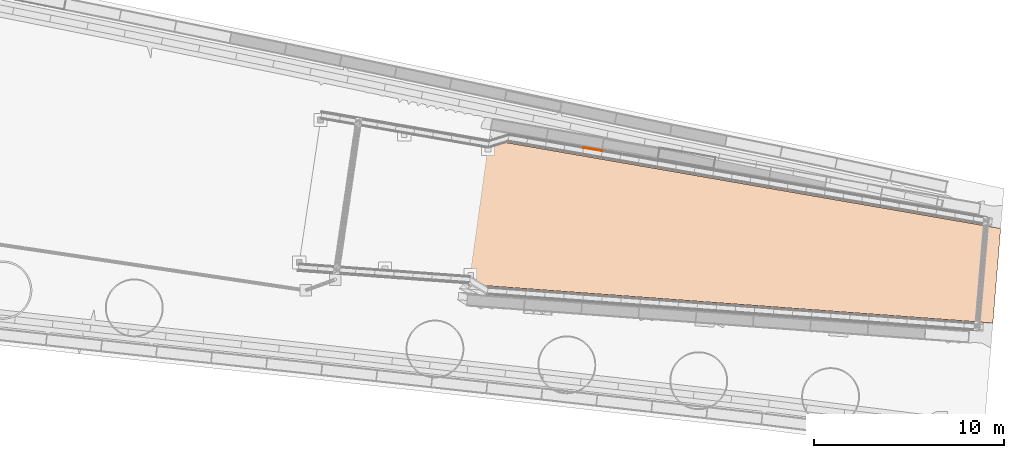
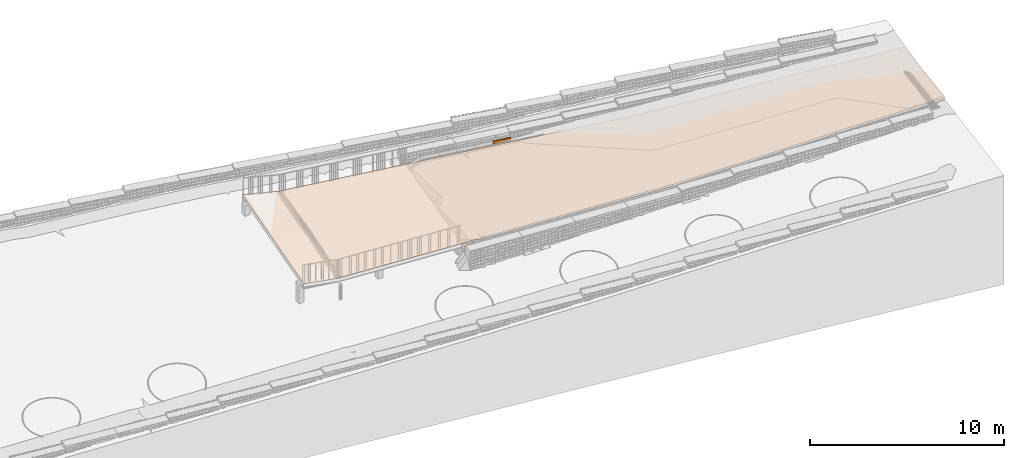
# Not in any storey, part 32 of 45: 1 geographic element, 1 proxy.
"""IFC4 model written with IfcOpenShell, lengths in metres."""

from ifc_helpers import new_model, si_unit, direction, frame, origin_with_axes, place, context, subcontext, project, spatial, polygons, material, element, save


model = new_model("IFC4")

# Units and contexts
model_context = context("Model", 3, precision=1e-05, world=origin_with_axes(), true_north=direction((0.0, 1.0)))
body_context = subcontext(model_context, "Body", "Model", "MODEL_VIEW")
ifc_project = project(units=[si_unit("VOLUMEUNIT", "CUBIC_METRE"), si_unit("LENGTHUNIT", "METRE"), si_unit("AREAUNIT", "SQUARE_METRE")], contexts=[model_context])

# Site
site_placement = place(None, origin_with_axes())
site = spatial("IfcSite", under=ifc_project, at=site_placement, Name="Lares · Rua das Mercês · artigo 4771")

# Geographic element
ifc_material_1 = material(Name="Pavimento rugoso · betão vassourado", Category="paving")
geographic_element_placement = place(site_placement, origin_with_axes())
element("IfcGeographicElement", 1, at=geographic_element_placement, inside=site, material=ifc_material_1, Name="Acesso trapezoidal · 8,60 m no pódio / 5,00 m na rua", ObjectType="Acesso trapezoidal · 8,60 m no pódio / 5,00 m na rua", PredefinedType="USERDEFINED", context=body_context, shape_type="Tessellation", body=[
    polygons([(47.2726755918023, 7.45513694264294, 15.76), (46.637095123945, 3.2023687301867, 15.76), (48.2651934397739, 7.33303730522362, 15.68), (48.2651934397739, 7.33303730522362, 15.68), (46.637095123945, 3.2023687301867, 15.76), (47.6414040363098, 3.1285378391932, 15.5737369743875), (47.9082560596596, 11.7079051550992, 15.76), (47.2726755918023, 7.45513694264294, 15.76), (48.8889828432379, 11.537536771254, 15.5737369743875), (48.8889828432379, 11.537536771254, 15.5737369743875), (47.2726755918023, 7.45513694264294, 15.76), (48.2651934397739, 7.33303730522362, 15.68), (48.2651934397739, 7.33303730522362, 15.68), (47.6414040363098, 3.1285378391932, 15.5737369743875), (49.2577112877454, 7.2109376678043, 15.6), (49.2577112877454, 7.2109376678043, 15.6), (47.6414040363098, 3.1285378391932, 15.5737369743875), (48.6457129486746, 3.0547069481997, 15.4949738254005), (48.8889828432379, 11.537536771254, 15.5737369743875), (48.2651934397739, 7.33303730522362, 15.68), (49.8697096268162, 11.3671683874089, 15.4949738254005), (49.8697096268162, 11.3671683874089, 15.4949738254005), (48.2651934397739, 7.33303730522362, 15.68), (49.2577112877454, 7.2109376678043, 15.6), (49.2577112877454, 7.2109376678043, 15.6), (48.6457129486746, 3.0547069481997, 15.4949738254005), (50.250229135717, 7.08883803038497, 15.601), (50.250229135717, 7.08883803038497, 15.601), (48.6457129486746, 3.0547069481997, 15.4949738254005), (49.6500218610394, 2.9808760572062, 15.4972105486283), (49.8697096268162, 11.3671683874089, 15.4949738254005), (49.2577112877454, 7.2109376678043, 15.6), (50.8504364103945, 11.1968000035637, 15.4972105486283), (50.8504364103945, 11.1968000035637, 15.4972105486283), (49.2577112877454, 7.2109376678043, 15.6), (50.250229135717, 7.08883803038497, 15.601), (50.250229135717, 7.08883803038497, 15.601), (49.6500218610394, 2.9808760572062, 15.4972105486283), (51.2427469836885, 6.96673839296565, 15.602), (51.2427469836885, 6.96673839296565, 15.602), (49.6500218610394, 2.9808760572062, 15.4972105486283), (50.6543307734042, 2.9070451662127, 15.4994471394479), (50.8504364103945, 11.1968000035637, 15.4972105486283), (50.250229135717, 7.08883803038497, 15.601), (51.8311631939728, 11.0264316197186, 15.4994471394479), (51.8311631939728, 11.0264316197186, 15.4994471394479), (50.250229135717, 7.08883803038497, 15.601), (51.2427469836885, 6.96673839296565, 15.602), (51.2427469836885, 6.96673839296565, 15.602), (50.6543307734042, 2.9070451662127, 15.4994471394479), (52.2352648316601, 6.84463875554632, 15.603), (52.2352648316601, 6.84463875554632, 15.603), (50.6543307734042, 2.9070451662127, 15.4994471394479), (51.658639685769, 2.8332142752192, 15.501683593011), (51.8311631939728, 11.0264316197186, 15.4994471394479), (51.2427469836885, 6.96673839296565, 15.602), (52.8118899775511, 10.8560632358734, 15.501683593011), (52.8118899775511, 10.8560632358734, 15.501683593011), (51.2427469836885, 6.96673839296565, 15.602), (52.2352648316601, 6.84463875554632, 15.603), (52.2352648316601, 6.84463875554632, 15.603), (51.658639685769, 2.8332142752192, 15.501683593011), (53.2277826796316, 6.722539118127, 15.604), (53.2277826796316, 6.722539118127, 15.604), (51.658639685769, 2.8332142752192, 15.501683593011), (52.6629485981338, 2.7593833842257, 15.5039199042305), (52.8118899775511, 10.8560632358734, 15.501683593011), (52.2352648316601, 6.84463875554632, 15.603), (53.7926167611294, 10.6856948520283, 15.5039199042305), (53.7926167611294, 10.6856948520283, 15.5039199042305), (52.2352648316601, 6.84463875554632, 15.603), (53.2277826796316, 6.722539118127, 15.604), (53.2277826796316, 6.722539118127, 15.604), (52.6629485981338, 2.7593833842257, 15.5039199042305), (54.2203005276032, 6.60043948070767, 15.605), (54.2203005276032, 6.60043948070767, 15.605), (52.6629485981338, 2.7593833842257, 15.5039199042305), (53.6672575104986, 2.6855524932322, 15.506156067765), (53.7926167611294, 10.6856948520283, 15.5039199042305), (53.2277826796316, 6.722539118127, 15.604), (54.7733435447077, 10.5153264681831, 15.506156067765), (54.7733435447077, 10.5153264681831, 15.506156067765), (53.2277826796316, 6.722539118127, 15.604), (54.2203005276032, 6.60043948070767, 15.605), (54.2203005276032, 6.60043948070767, 15.605), (53.6672575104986, 2.6855524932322, 15.506156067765), (55.2128183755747, 6.47833984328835, 15.606), (55.2128183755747, 6.47833984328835, 15.606), (53.6672575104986, 2.6855524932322, 15.506156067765), (54.6715664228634, 2.6117216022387, 15.5083920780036), (54.7733435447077, 10.5153264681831, 15.506156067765), (54.2203005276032, 6.60043948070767, 15.605), (55.754070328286, 10.344958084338, 15.5083920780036), (55.754070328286, 10.344958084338, 15.5083920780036), (54.2203005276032, 6.60043948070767, 15.605), (55.2128183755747, 6.47833984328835, 15.606), (55.2128183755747, 6.47833984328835, 15.606), (54.6715664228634, 2.6117216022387, 15.5083920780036), (56.2053362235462, 6.35624020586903, 15.607), (56.2053362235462, 6.35624020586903, 15.607), (54.6715664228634, 2.6117216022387, 15.5083920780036), (55.6758753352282, 2.5378907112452, 15.5106279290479), (55.754070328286, 10.344958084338, 15.5083920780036), (55.2128183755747, 6.47833984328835, 15.606), (56.7347971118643, 10.1745897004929, 15.5106279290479), (56.7347971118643, 10.1745897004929, 15.5106279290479), (55.2128183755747, 6.47833984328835, 15.606), (56.2053362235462, 6.35624020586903, 15.607), (56.2053362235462, 6.35624020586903, 15.607), (55.6758753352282, 2.5378907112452, 15.5106279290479), (57.1978540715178, 6.2341405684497, 15.608), (57.1978540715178, 6.2341405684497, 15.608), (55.6758753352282, 2.5378907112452, 15.5106279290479), (56.680184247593, 2.4640598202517, 15.512863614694), (56.7347971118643, 10.1745897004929, 15.5106279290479), (56.2053362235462, 6.35624020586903, 15.607), (57.7155238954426, 10.0042213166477, 15.512863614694), (57.7155238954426, 10.0042213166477, 15.512863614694), (56.2053362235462, 6.35624020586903, 15.607), (57.1978540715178, 6.2341405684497, 15.608), (57.1978540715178, 6.2341405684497, 15.608), (56.680184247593, 2.4640598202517, 15.512863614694), (58.1903719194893, 6.11204093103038, 15.609), (58.1903719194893, 6.11204093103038, 15.609), (56.680184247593, 2.4640598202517, 15.512863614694), (57.6844931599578, 2.3902289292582, 15.5150991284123), (57.7155238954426, 10.0042213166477, 15.512863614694), (57.1978540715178, 6.2341405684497, 15.608), (58.6962506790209, 9.83385293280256, 15.5150991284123), (58.6962506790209, 9.83385293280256, 15.5150991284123), (57.1978540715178, 6.2341405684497, 15.608), (58.1903719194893, 6.11204093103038, 15.609), (58.1903719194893, 6.11204093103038, 15.609), (57.6844931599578, 2.3902289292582, 15.5150991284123), (59.1828897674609, 5.98994129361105, 15.61), (59.1828897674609, 5.98994129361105, 15.61), (57.6844931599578, 2.3902289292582, 15.5150991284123), (58.6888020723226, 2.3163980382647, 15.5173344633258), (58.6962506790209, 9.83385293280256, 15.5150991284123), (58.1903719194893, 6.11204093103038, 15.609), (59.6769774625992, 9.66348454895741, 15.5173344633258), (59.6769774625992, 9.66348454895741, 15.5173344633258), (58.1903719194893, 6.11204093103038, 15.609), (59.1828897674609, 5.98994129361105, 15.61), (59.1828897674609, 5.98994129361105, 15.61), (58.6888020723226, 2.3163980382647, 15.5173344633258), (60.1754076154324, 5.86784165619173, 15.611), (60.1754076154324, 5.86784165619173, 15.611), (58.6888020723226, 2.3163980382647, 15.5173344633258), (59.6931109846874, 2.2425671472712, 15.5195696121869), (59.6769774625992, 9.66348454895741, 15.5173344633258), (59.1828897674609, 5.98994129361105, 15.61), (60.6577042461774, 9.49311616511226, 15.5195696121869), (60.6577042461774, 9.49311616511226, 15.5195696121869), (59.1828897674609, 5.98994129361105, 15.61), (60.1754076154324, 5.86784165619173, 15.611), (60.1754076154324, 5.86784165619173, 15.611), (59.6931109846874, 2.2425671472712, 15.5195696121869), (61.167925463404, 5.7457420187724, 15.612), (61.167925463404, 5.7457420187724, 15.612), (59.6931109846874, 2.2425671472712, 15.5195696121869), (60.6974198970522, 2.1687362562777, 15.521804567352), (60.6577042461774, 9.49311616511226, 15.5195696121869), (60.1754076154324, 5.86784165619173, 15.611), (61.6384310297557, 9.32274778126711, 15.521804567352), (61.6384310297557, 9.32274778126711, 15.521804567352), (60.1754076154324, 5.86784165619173, 15.611), (61.167925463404, 5.7457420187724, 15.612), (61.167925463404, 5.7457420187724, 15.612), (60.6974198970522, 2.1687362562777, 15.521804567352), (62.1604433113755, 5.62364238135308, 15.613), (62.1604433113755, 5.62364238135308, 15.613), (60.6974198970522, 2.1687362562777, 15.521804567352), (61.701728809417, 2.0949053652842, 15.5240393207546), (61.6384310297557, 9.32274778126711, 15.521804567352), (61.167925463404, 5.7457420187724, 15.612), (62.619157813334, 9.15237939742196, 15.5240393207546), (62.619157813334, 9.15237939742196, 15.5240393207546), (61.167925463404, 5.7457420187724, 15.612), (62.1604433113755, 5.62364238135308, 15.613), (62.1604433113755, 5.62364238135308, 15.613), (61.701728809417, 2.0949053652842, 15.5240393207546), (63.1529611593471, 5.50154274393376, 15.614), (63.1529611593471, 5.50154274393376, 15.614), (61.701728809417, 2.0949053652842, 15.5240393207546), (62.7060377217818, 2.0210744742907, 15.5262738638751), (62.619157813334, 9.15237939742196, 15.5240393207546), (62.1604433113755, 5.62364238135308, 15.613), (63.5998845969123, 8.98201101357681, 15.5262738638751), (63.5998845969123, 8.98201101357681, 15.5262738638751), (62.1604433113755, 5.62364238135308, 15.613), (63.1529611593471, 5.50154274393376, 15.614), (63.1529611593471, 5.50154274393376, 15.614), (62.7060377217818, 2.0210744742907, 15.5262738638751), (64.1454790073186, 5.37944310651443, 15.615), (64.1454790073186, 5.37944310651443, 15.615), (62.7060377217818, 2.0210744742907, 15.5262738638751), (63.7103466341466, 1.9472435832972, 15.5285081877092), (63.5998845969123, 8.98201101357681, 15.5262738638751), (63.1529611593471, 5.50154274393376, 15.614), (64.5806113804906, 8.81164262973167, 15.5285081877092), (64.5806113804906, 8.81164262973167, 15.5285081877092), (63.1529611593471, 5.50154274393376, 15.614), (64.1454790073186, 5.37944310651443, 15.615), (64.1454790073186, 5.37944310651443, 15.615), (63.7103466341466, 1.9472435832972, 15.5285081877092), (65.1379968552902, 5.25734346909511, 15.616), (65.1379968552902, 5.25734346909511, 15.616), (63.7103466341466, 1.9472435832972, 15.5285081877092), (64.7146555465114, 1.8734126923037, 15.5307422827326), (64.5806113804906, 8.81164262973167, 15.5285081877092), (64.1454790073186, 5.37944310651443, 15.615), (65.5613381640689, 8.64127424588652, 15.5307422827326), (65.5613381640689, 8.64127424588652, 15.5307422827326), (64.1454790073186, 5.37944310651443, 15.615), (65.1379968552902, 5.25734346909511, 15.616), (65.1379968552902, 5.25734346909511, 15.616), (64.7146555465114, 1.8734126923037, 15.5307422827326), (66.1305147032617, 5.13524383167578, 15.617), (66.1305147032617, 5.13524383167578, 15.617), (64.7146555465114, 1.8734126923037, 15.5307422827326), (65.7189644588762, 1.7995818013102, 15.5329761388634), (65.5613381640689, 8.64127424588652, 15.5307422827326), (65.1379968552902, 5.25734346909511, 15.616), (66.5420649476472, 8.47090586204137, 15.5329761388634), (66.5420649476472, 8.47090586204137, 15.5329761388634), (65.1379968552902, 5.25734346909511, 15.616), (66.1305147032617, 5.13524383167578, 15.617), (66.1305147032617, 5.13524383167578, 15.617), (65.7189644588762, 1.7995818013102, 15.5329761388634), (67.1230325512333, 5.01314419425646, 15.618), (67.1230325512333, 5.01314419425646, 15.618), (65.7189644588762, 1.7995818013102, 15.5329761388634), (66.723273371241, 1.7257509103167, 15.5352097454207), (66.5420649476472, 8.47090586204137, 15.5329761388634), (66.1305147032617, 5.13524383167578, 15.617), (67.5227917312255, 8.30053747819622, 15.5352097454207), (67.5227917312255, 8.30053747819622, 15.5352097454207), (66.1305147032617, 5.13524383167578, 15.617), (67.1230325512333, 5.01314419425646, 15.618), (67.1230325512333, 5.01314419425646, 15.618), (66.723273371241, 1.7257509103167, 15.5352097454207), (68.1155503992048, 4.89104455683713, 15.619), (68.1155503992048, 4.89104455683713, 15.619), (66.723273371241, 1.7257509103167, 15.5352097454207), (67.7275822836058, 1.6519200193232, 15.5374430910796), (67.5227917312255, 8.30053747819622, 15.5352097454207), (67.1230325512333, 5.01314419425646, 15.618), (68.5035185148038, 8.13016909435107, 15.5374430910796), (68.5035185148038, 8.13016909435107, 15.5374430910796), (67.1230325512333, 5.01314419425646, 15.618), (68.1155503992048, 4.89104455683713, 15.619), (68.1155503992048, 4.89104455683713, 15.619), (67.7275822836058, 1.6519200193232, 15.5374430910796), (69.1080682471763, 4.76894491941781, 15.6566969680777), (69.1080682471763, 4.76894491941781, 15.6566969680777), (67.7275822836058, 1.6519200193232, 15.5374430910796), (68.7318911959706, 1.5780891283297, 15.5763731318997), (68.5035185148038, 8.13016909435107, 15.5374430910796), (68.1155503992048, 4.89104455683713, 15.619), (69.4842452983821, 7.95980071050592, 15.5763731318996), (69.4842452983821, 7.95980071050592, 15.5763731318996), (68.1155503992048, 4.89104455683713, 15.619), (69.1080682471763, 4.76894491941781, 15.6566969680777), (69.1080682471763, 4.76894491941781, 15.6566969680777), (68.7318911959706, 1.5780891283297, 15.5763731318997), (70.1005860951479, 4.64684528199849, 15.6990598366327), (70.1005860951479, 4.64684528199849, 15.6990598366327), (68.7318911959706, 1.5780891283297, 15.5763731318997), (69.7362001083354, 1.5042582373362, 15.6199687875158), (69.4842452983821, 7.95980071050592, 15.5763731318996), (69.1080682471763, 4.76894491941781, 15.6566969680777), (70.4649720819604, 7.78943232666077, 15.6199687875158), (70.4649720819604, 7.78943232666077, 15.6199687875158), (69.1080682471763, 4.76894491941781, 15.6566969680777), (70.1005860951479, 4.64684528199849, 15.6990598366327), (70.1005860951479, 4.64684528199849, 15.6990598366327), (69.7362001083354, 1.5042582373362, 15.6199687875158), (71.0931039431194, 4.52474564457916, 15.740890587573), (71.0931039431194, 4.52474564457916, 15.740890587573), (69.7362001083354, 1.5042582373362, 15.6199687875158), (70.7405090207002, 1.4304273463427, 15.6630320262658), (70.4649720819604, 7.78943232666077, 15.6199687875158), (70.1005860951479, 4.64684528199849, 15.6990598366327), (71.4456988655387, 7.61906394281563, 15.6630320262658), (71.4456988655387, 7.61906394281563, 15.6630320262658), (70.1005860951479, 4.64684528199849, 15.6990598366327), (71.0931039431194, 4.52474564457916, 15.740890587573), (71.0931039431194, 4.52474564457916, 15.740890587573), (70.7405090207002, 1.4304273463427, 15.6630320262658), (72.085621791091, 4.40264600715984, 15.7861354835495), (72.085621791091, 4.40264600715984, 15.7861354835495), (70.7405090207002, 1.4304273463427, 15.6630320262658), (71.744817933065, 1.3565964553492, 15.7095090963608), (71.4456988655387, 7.61906394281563, 15.6630320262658), (71.0931039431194, 4.52474564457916, 15.740890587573), (72.426425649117, 7.44869555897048, 15.7095090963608), (72.426425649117, 7.44869555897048, 15.7095090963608), (71.0931039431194, 4.52474564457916, 15.740890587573), (72.085621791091, 4.40264600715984, 15.7861354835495), (72.085621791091, 4.40264600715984, 15.7861354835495), (71.744817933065, 1.3565964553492, 15.7095090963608), (73.0781396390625, 4.28054636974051, 15.8397425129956), (73.0781396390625, 4.28054636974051, 15.8397425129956), (71.744817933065, 1.3565964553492, 15.7095090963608), (72.7491268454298, 1.2827655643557, 15.7643479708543), (72.426425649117, 7.44869555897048, 15.7095090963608), (72.085621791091, 4.40264600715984, 15.7861354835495), (73.4071524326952, 7.27832717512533, 15.7643479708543), (73.4071524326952, 7.27832717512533, 15.7643479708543), (72.085621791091, 4.40264600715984, 15.7861354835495), (73.0781396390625, 4.28054636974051, 15.8397425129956), (73.0781396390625, 4.28054636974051, 15.8397425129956), (72.7491268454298, 1.2827655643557, 15.7643479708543), (74.0706574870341, 4.15844673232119, 15.8933495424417), (74.0706574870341, 4.15844673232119, 15.8933495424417), (72.7491268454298, 1.2827655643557, 15.7643479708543), (73.7534357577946, 1.2089346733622, 15.8191864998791), (73.4071524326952, 7.27832717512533, 15.7643479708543), (73.0781396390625, 4.28054636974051, 15.8397425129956), (74.3878792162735, 7.10795879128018, 15.8191864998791), (74.3878792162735, 7.10795879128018, 15.8191864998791), (73.0781396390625, 4.28054636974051, 15.8397425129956), (74.0706574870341, 4.15844673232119, 15.8933495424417), (74.0706574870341, 4.15844673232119, 15.8933495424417), (73.7534357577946, 1.2089346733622, 15.8191864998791), (75.0631753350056, 4.03634709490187, 15.9469565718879), (75.0631753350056, 4.03634709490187, 15.9469565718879), (73.7534357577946, 1.2089346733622, 15.8191864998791), (74.7577446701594, 1.1351037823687, 15.8740246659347), (74.3878792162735, 7.10795879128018, 15.8191864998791), (74.0706574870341, 4.15844673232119, 15.8933495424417), (75.3686059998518, 6.93759040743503, 15.8740246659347), (75.3686059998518, 6.93759040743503, 15.8740246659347), (74.0706574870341, 4.15844673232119, 15.8933495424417), (75.0631753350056, 4.03634709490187, 15.9469565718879), (75.0631753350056, 4.03634709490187, 15.9469565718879), (74.7577446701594, 1.1351037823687, 15.8740246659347), (76.0556931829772, 3.91424745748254, 16.000563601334), (76.0556931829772, 3.91424745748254, 16.000563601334), (74.7577446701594, 1.1351037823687, 15.8740246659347), (75.7620535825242, 1.0612728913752, 15.9288624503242), (75.3686059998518, 6.93759040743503, 15.8740246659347), (75.0631753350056, 4.03634709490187, 15.9469565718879), (76.3493327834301, 6.76722202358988, 15.9288624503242), (76.3493327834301, 6.76722202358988, 15.9288624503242), (75.0631753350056, 4.03634709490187, 15.9469565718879), (76.0556931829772, 3.91424745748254, 16.000563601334), (76.0556931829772, 3.91424745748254, 16.000563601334), (75.7620535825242, 1.0612728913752, 15.9288624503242), (77.0482110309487, 3.79214782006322, 16.0541706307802), (77.0482110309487, 3.79214782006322, 16.0541706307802), (75.7620535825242, 1.0612728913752, 15.9288624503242), (76.766362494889, 0.987442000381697, 15.9836998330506), (76.3493327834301, 6.76722202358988, 15.9288624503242), (76.0556931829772, 3.91424745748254, 16.000563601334), (77.3300595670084, 6.59685363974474, 15.9836998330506), (77.3300595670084, 6.59685363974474, 15.9836998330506), (76.0556931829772, 3.91424745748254, 16.000563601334), (77.0482110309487, 3.79214782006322, 16.0541706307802), (77.0482110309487, 3.79214782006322, 16.0541706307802), (76.766362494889, 0.987442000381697, 15.9836998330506), (78.0407288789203, 3.67004818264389, 16.1077776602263), (78.0407288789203, 3.67004818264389, 16.1077776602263), (76.766362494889, 0.987442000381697, 15.9836998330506), (77.7706714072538, 0.913611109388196, 16.038536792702), (77.3300595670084, 6.59685363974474, 15.9836998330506), (77.0482110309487, 3.79214782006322, 16.0541706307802), (78.3107863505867, 6.42648525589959, 16.038536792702), (78.3107863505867, 6.42648525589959, 16.038536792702), (77.0482110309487, 3.79214782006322, 16.0541706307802), (78.0407288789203, 3.67004818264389, 16.1077776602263), (78.0407288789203, 3.67004818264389, 16.1077776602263), (77.7706714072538, 0.913611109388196, 16.038536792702), (79.0332467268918, 3.54794854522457, 16.1490898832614), (79.0332467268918, 3.54794854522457, 16.1490898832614), (77.7706714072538, 0.913611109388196, 16.038536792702), (78.7749803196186, 0.839780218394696, 16.0810784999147), (78.3107863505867, 6.42648525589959, 16.038536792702), (78.0407288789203, 3.67004818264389, 16.1077776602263), (79.291513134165, 6.25611687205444, 16.0810784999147), (79.291513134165, 6.25611687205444, 16.0810784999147), (78.0407288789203, 3.67004818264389, 16.1077776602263), (79.0332467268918, 3.54794854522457, 16.1490898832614), (79.0332467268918, 3.54794854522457, 16.1490898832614), (78.7749803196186, 0.839780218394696, 16.0810784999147), (80.0257645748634, 3.42584890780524, 16.1786969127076), (80.0257645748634, 3.42584890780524, 16.1786969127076), (78.7749803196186, 0.839780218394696, 16.0810784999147), (79.7792892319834, 0.765949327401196, 16.1119145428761), (79.291513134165, 6.25611687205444, 16.0810784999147), (79.0332467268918, 3.54794854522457, 16.1490898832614), (80.2722399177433, 6.08574848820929, 16.1119145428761), (80.2722399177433, 6.08574848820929, 16.1119145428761), (79.0332467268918, 3.54794854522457, 16.1490898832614), (80.0257645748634, 3.42584890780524, 16.1786969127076), (80.0257645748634, 3.42584890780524, 16.1786969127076), (79.7792892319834, 0.765949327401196, 16.1119145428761), (81.0182824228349, 3.30374927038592, 16.2083039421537), (81.0182824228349, 3.30374927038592, 16.2083039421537), (79.7792892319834, 0.765949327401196, 16.1119145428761), (80.7835981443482, 0.692118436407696, 16.1427500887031), (80.2722399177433, 6.08574848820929, 16.1119145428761), (80.0257645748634, 3.42584890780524, 16.1786969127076), (81.2529667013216, 5.91538010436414, 16.1427500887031), (81.2529667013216, 5.91538010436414, 16.1427500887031), (80.0257645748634, 3.42584890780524, 16.1786969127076), (81.0182824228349, 3.30374927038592, 16.2083039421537), (81.0182824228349, 3.30374927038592, 16.2083039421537), (80.7835981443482, 0.692118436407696, 16.1427500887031), (82.0108002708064, 3.18164963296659, 16.2386952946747), (82.0108002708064, 3.18164963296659, 16.2386952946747), (80.7835981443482, 0.692118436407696, 16.1427500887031), (81.787907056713, 0.618287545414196, 16.1908459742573), (81.2529667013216, 5.91538010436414, 16.1427500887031), (81.0182824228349, 3.30374927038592, 16.2083039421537), (82.2336934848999, 5.74501172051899, 16.1908459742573), (82.2336934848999, 5.74501172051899, 16.1908459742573), (81.0182824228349, 3.30374927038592, 16.2083039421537), (82.0108002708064, 3.18164963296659, 16.2386952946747), (82.0108002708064, 3.18164963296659, 16.2386952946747), (81.787907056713, 0.618287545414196, 16.1908459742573), (82.6933710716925, 3.09767970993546, 16.259875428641), (82.6933710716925, 3.09767970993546, 16.259875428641), (81.787907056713, 0.618287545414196, 16.1908459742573), (82.4785867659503, 0.567512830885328, 16.2344827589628), (82.2336934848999, 5.74501172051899, 16.1908459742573), (82.0108002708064, 3.18164963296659, 16.2386952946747), (82.9081553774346, 5.62784658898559, 16.2344827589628), (82.9081553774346, 5.62784658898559, 16.2344827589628), (82.0108002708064, 3.18164963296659, 16.2386952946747), (82.6933710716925, 3.09767970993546, 16.259875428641), (82.6933710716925, 3.09767970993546, 16.259875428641), (82.4785867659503, 0.567512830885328, 16.2344827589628), (83.003318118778, 3.05954999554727, 16.2694930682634), (83.003318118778, 3.05954999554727, 16.2694930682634), (82.4785867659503, 0.567512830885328, 16.2344827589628), (82.7922159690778, 0.544456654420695, 16.2541059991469), (82.9081553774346, 5.62784658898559, 16.2344827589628), (82.6933710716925, 3.09767970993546, 16.259875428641), (83.2144202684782, 5.57464333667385, 16.2541059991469), (83.2144202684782, 5.57464333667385, 16.2541059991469), (82.6933710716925, 3.09767970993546, 16.259875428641), (83.003318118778, 3.05954999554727, 16.2694930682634), (83.003318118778, 3.05954999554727, 16.2694930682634), (82.7922159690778, 0.544456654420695, 16.2541059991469), (83.4873853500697, 2.99999999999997, 16.284513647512), (83.003318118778, 3.05954999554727, 16.2694930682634), (83.4873853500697, 2.99999999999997, 16.284513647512), (83.4873853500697, 3.0, 16.284513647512), (83.4873853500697, 3.0, 16.284513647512), (83.4873853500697, 2.99999999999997, 16.284513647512), (82.7922159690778, 0.544456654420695, 16.2541059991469), (83.4873853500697, 2.99999999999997, 16.284513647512), (82.7922159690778, 0.544456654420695, 16.2541059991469), (83.2820338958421, 0.508448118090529, 16.284513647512), (83.2144202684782, 5.57464333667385, 16.2541059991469), (83.003318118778, 3.05954999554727, 16.2694930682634), (83.6927368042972, 5.49155188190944, 16.284513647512), (83.2144202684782, 5.57464333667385, 16.2541059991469), (83.6927368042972, 5.49155188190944, 16.284513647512), (83.6927368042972, 5.49155188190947, 16.284513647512), (83.6927368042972, 5.49155188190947, 16.284513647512), (83.6927368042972, 5.49155188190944, 16.284513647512), (83.003318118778, 3.05954999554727, 16.2694930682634), (83.6927368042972, 5.49155188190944, 16.284513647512), (83.003318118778, 3.05954999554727, 16.2694930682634), (83.4873853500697, 3.0, 16.284513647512)], [[[1, 2, 3]], [[4, 5, 6]], [[7, 8, 9]], [[10, 11, 12]], [[13, 14, 15]], [[16, 17, 18]], [[19, 20, 21]], [[22, 23, 24]], [[25, 26, 27]], [[28, 29, 30]], [[31, 32, 33]], [[34, 35, 36]], [[37, 38, 39]], [[40, 41, 42]], [[43, 44, 45]], [[46, 47, 48]], [[49, 50, 51]], [[52, 53, 54]], [[55, 56, 57]], [[58, 59, 60]], [[61, 62, 63]], [[64, 65, 66]], [[67, 68, 69]], [[70, 71, 72]], [[73, 74, 75]], [[76, 77, 78]], [[79, 80, 81]], [[82, 83, 84]], [[85, 86, 87]], [[88, 89, 90]], [[91, 92, 93]], [[94, 95, 96]], [[97, 98, 99]], [[100, 101, 102]], [[103, 104, 105]], [[106, 107, 108]], [[109, 110, 111]], [[112, 113, 114]], [[115, 116, 117]], [[118, 119, 120]], [[121, 122, 123]], [[124, 125, 126]], [[127, 128, 129]], [[130, 131, 132]], [[133, 134, 135]], [[136, 137, 138]], [[139, 140, 141]], [[142, 143, 144]], [[145, 146, 147]], [[148, 149, 150]], [[151, 152, 153]], [[154, 155, 156]], [[157, 158, 159]], [[160, 161, 162]], [[163, 164, 165]], [[166, 167, 168]], [[169, 170, 171]], [[172, 173, 174]], [[175, 176, 177]], [[178, 179, 180]], [[181, 182, 183]], [[184, 185, 186]], [[187, 188, 189]], [[190, 191, 192]], [[193, 194, 195]], [[196, 197, 198]], [[199, 200, 201]], [[202, 203, 204]], [[205, 206, 207]], [[208, 209, 210]], [[211, 212, 213]], [[214, 215, 216]], [[217, 218, 219]], [[220, 221, 222]], [[223, 224, 225]], [[226, 227, 228]], [[229, 230, 231]], [[232, 233, 234]], [[235, 236, 237]], [[238, 239, 240]], [[241, 242, 243]], [[244, 245, 246]], [[247, 248, 249]], [[250, 251, 252]], [[253, 254, 255]], [[256, 257, 258]], [[259, 260, 261]], [[262, 263, 264]], [[265, 266, 267]], [[268, 269, 270]], [[271, 272, 273]], [[274, 275, 276]], [[277, 278, 279]], [[280, 281, 282]], [[283, 284, 285]], [[286, 287, 288]], [[289, 290, 291]], [[292, 293, 294]], [[295, 296, 297]], [[298, 299, 300]], [[301, 302, 303]], [[304, 305, 306]], [[307, 308, 309]], [[310, 311, 312]], [[313, 314, 315]], [[316, 317, 318]], [[319, 320, 321]], [[322, 323, 324]], [[325, 326, 327]], [[328, 329, 330]], [[331, 332, 333]], [[334, 335, 336]], [[337, 338, 339]], [[340, 341, 342]], [[343, 344, 345]], [[346, 347, 348]], [[349, 350, 351]], [[352, 353, 354]], [[355, 356, 357]], [[358, 359, 360]], [[361, 362, 363]], [[364, 365, 366]], [[367, 368, 369]], [[370, 371, 372]], [[373, 374, 375]], [[376, 377, 378]], [[379, 380, 381]], [[382, 383, 384]], [[385, 386, 387]], [[388, 389, 390]], [[391, 392, 393]], [[394, 395, 396]], [[397, 398, 399]], [[400, 401, 402]], [[403, 404, 405]], [[406, 407, 408]], [[409, 410, 411]], [[412, 413, 414]], [[415, 416, 417]], [[418, 419, 420]], [[421, 422, 423]], [[424, 425, 426]], [[427, 428, 429]], [[430, 431, 432]], [[433, 434, 435]], [[436, 437, 438]], [[439, 440, 441]], [[442, 443, 444]], [[445, 446, 447]], [[448, 449, 450]], [[451, 452, 453]], [[454, 455, 456]], [[457, 458, 459]], [[460, 461, 462]], [[463, 464, 465]], [[466, 467, 468]]]),
])

# Proxy
ifc_material_2 = material(Name="Caleiras · betão", Category="concrete")
proxy_placement = place(site_placement, frame((0.0, 0.0, 0.0), z_axis=(0.0, 0.0, 1.0), x_axis=(1.0, -1.03767253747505e-17, 0.0)))
element("IfcBuildingElementProxy", 2, at=proxy_placement, inside=site, material=ifc_material_2, Name="Acesso · canal lateral", ObjectType="Acesso · canal lateral", PredefinedType="USERDEFINED", context=body_context, shape_type="Tessellation", body=[
    polygons([(61.6917883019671, 9.72926097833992, 15.292), (61.6982716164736, 9.77883886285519, 15.292), (62.6786075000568, 9.6085215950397, 15.293), (62.6721241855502, 9.55894371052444, 15.293), (61.6917883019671, 9.72926097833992, 15.492), (61.6982716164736, 9.77883886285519, 15.492), (62.6786075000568, 9.6085215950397, 15.493), (62.6721241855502, 9.55894371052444, 15.493)], [[[4, 3, 2, 1]], [[5, 6, 7, 8]], [[1, 2, 6, 5]], [[2, 3, 7, 6]], [[3, 4, 8, 7]], [[4, 1, 5, 8]]]),
])

save(model, "model.ifc")
